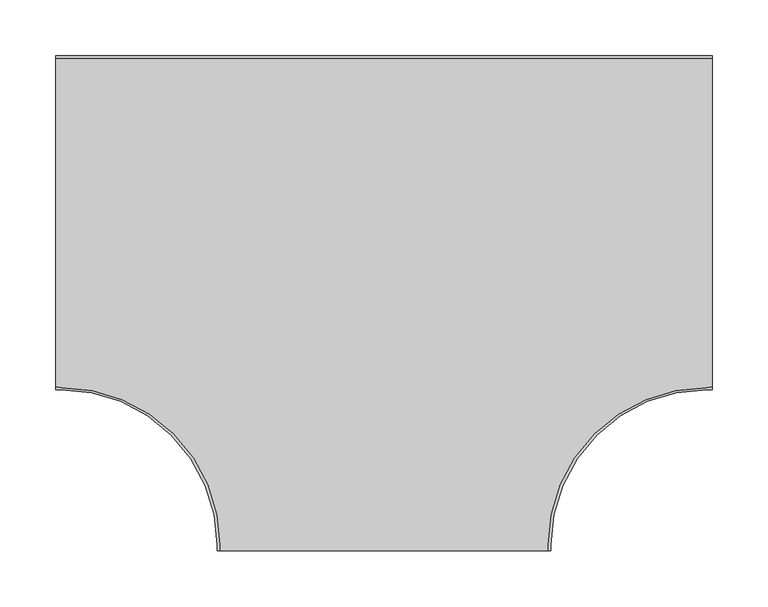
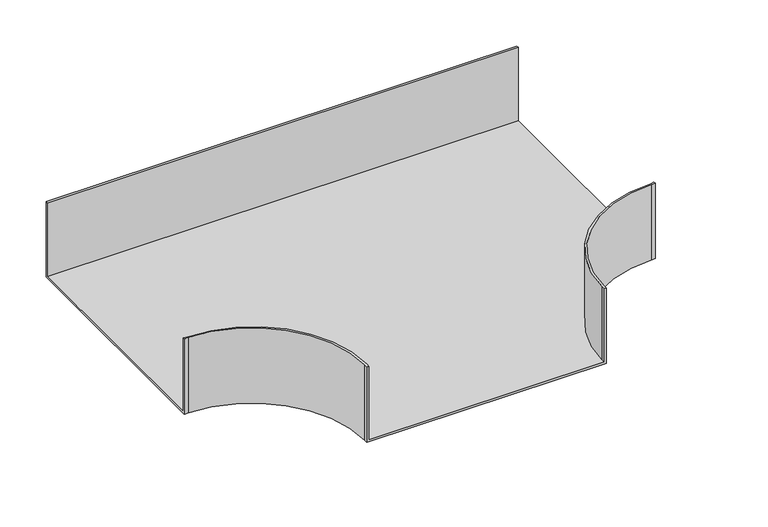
"""IFC4 building model written with IfcOpenShell, lengths in millimetres: cable carrier fitting geometry, BAKS_Horizontal tee radius : TKPJ_H100."""

from ifc_helpers import new_model, si_unit, frame, origin, place, context, project, spatial, polyline, circle_curve, source, transform, mapped, element, save
from ifc_brep_helpers import plane_surface, cylinder_surface, revolved_surface, advanced_brep


def cable_carrier_fitting_ca5a2d19(model_context):
    return source(origin(), model_context, "Body", "AdvancedBrep", [
        advanced_brep(
        [(-150.0, -290.0, 50.0), (-150.0, -295.0, 50.0), (-147.46, -295.0, 50.0), (-147.46, -290.0, 50.0), (-290.0, -148.503822, 50.0), (-295.0, -147.46, 50.0), (-295.0, -150.0, 50.0), (-290.0, -150.0, 50.0), (150.0, -290.0, 50.0), (290.0, -150.0, 50.0), (295.0, -150.0, 50.0), (295.0, -147.46, 50.0), (290.0, -148.503822, 50.0), (147.46, -290.0, 50.0), (147.46, -295.0, 50.0), (150.0, -295.0, 50.0), (295.0, 150.0, 50.0), (-295.0, 150.0, 50.0), (-295.0, 147.46, 50.0), (295.0, 147.46, 50.0), (-150.0, -290.0, -50.0), (-290.0, -150.0, -50.0), (-295.0, -150.0, -50.0), (-295.0, 150.0, -50.0), (295.0, 150.0, -50.0), (295.0, -150.0, -50.0), (290.0, -150.0, -50.0), (150.0, -290.0, -50.0), (150.0, -295.0, -50.0), (-150.0, -295.0, -50.0), (-150.0, -290.0, -47.46), (147.46, -295.0, -47.46), (-147.46, -295.0, -47.46), (-147.46, -290.0, -47.46), (-290.0, -148.503822, -47.46), (-295.0, -147.46, -47.46), (-295.0, 147.46, -47.46), (-290.0, -150.0, -47.46), (150.0, -290.0, -47.46), (290.0, -150.0, -47.46), (295.0, 147.46, -47.46), (295.0, -147.46, -47.46), (290.0, -148.503822, -47.46), (147.46, -290.0, -47.46)],
        [
            (0, 1),
            (1, 2),
            (2, 3),
            (3, 4, circle_curve(frame((-288.96, -290.0, 50.0), z_axis=(0.0, 0.0, 1.0), x_axis=(1.0, 0.0, 0.0)), 141.5)),
            (4, 5),
            (5, 6),
            (6, 7),
            (7, 0, circle_curve(frame((-290.0, -290.0, 50.0), z_axis=(0.0, 0.0, -1.0), x_axis=(1.0, 0.0, 0.0)), 140.0)),
            (8, 9, circle_curve(frame((290.0, -290.0, 50.0), z_axis=(0.0, 0.0, -1.0), x_axis=(1.0, 0.0, 0.0)), 140.0)),
            (9, 10),
            (10, 11),
            (11, 12),
            (12, 13, circle_curve(frame((288.96, -290.0, 50.0), z_axis=(0.0, 0.0, 1.0), x_axis=(1.0, 0.0, 0.0)), 141.5)),
            (13, 14),
            (14, 15),
            (15, 8),
            (16, 17),
            (17, 18),
            (18, 19),
            (19, 16),
            (20, 21, circle_curve(frame((-290.0, -290.0, -50.0), z_axis=(0.0, 0.0, 1.0), x_axis=(1.0, 0.0, 0.0)), 140.0)),
            (21, 22),
            (22, 23),
            (23, 24),
            (24, 25),
            (25, 26),
            (26, 27, circle_curve(frame((290.0, -290.0, -50.0), z_axis=(0.0, 0.0, 1.0), x_axis=(1.0, 0.0, 0.0)), 140.0)),
            (27, 28),
            (28, 29),
            (29, 20),
            (29, 1),
            (0, 30),
            (30, 20),
            (28, 15),
            (14, 31),
            (31, 32),
            (32, 2),
            (32, 33),
            (33, 3),
            (33, 34, circle_curve(frame((-288.96, -290.0, -47.46), z_axis=(0.0, 0.0, 1.0), x_axis=(1.0, 0.0, 0.0)), 141.5)),
            (34, 4),
            (34, 35),
            (35, 5),
            (35, 36),
            (36, 18),
            (17, 23),
            (22, 6),
            (21, 37),
            (37, 7),
            (8, 38),
            (38, 27),
            (26, 39),
            (39, 9),
            (25, 10),
            (24, 16),
            (19, 40),
            (40, 41),
            (41, 11),
            (41, 42),
            (42, 12),
            (42, 43, circle_curve(frame((288.96, -290.0, -47.46), z_axis=(0.0, 0.0, 1.0), x_axis=(1.0, 0.0, 0.0)), 141.5)),
            (43, 13),
            (43, 31),
            (36, 40),
        ],
        [
            plane_surface(frame((-150.0, -290.0, 50.0), z_axis=(0.0, 0.0, 1.0), x_axis=(0.0, -1.0, 0.0))),
            plane_surface(frame((-150.0, -290.0, -50.0), z_axis=(0.0, 0.0, -1.0), x_axis=(0.0, 1.0, 0.0))),
            plane_surface(frame((-150.0, -290.0, 50.0), z_axis=(-1.0, 0.0, 0.0), x_axis=(0.0, 0.0, -1.0))),
            plane_surface(frame((-150.0, -295.0, 50.0), z_axis=(0.0, -1.0, 0.0), x_axis=(0.0, 0.0, -1.0))),
            plane_surface(frame((-147.46, -295.0, 50.0), z_axis=(1.0, 0.0, 0.0), x_axis=(0.0, 0.0, -1.0))),
            cylinder_surface(frame((-288.96, -290.0, -50.0), z_axis=(0.0, 0.0, 1.0), x_axis=(1.0, 0.0, 0.0)), 141.5),
            plane_surface(frame((-290.0, -148.503822, 50.0), z_axis=(0.20435864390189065, 0.9788960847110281, 0.0), x_axis=(0.0, 0.0, -1.0))),
            plane_surface(frame((-295.0, -147.46, 50.0), z_axis=(-1.0, 0.0, 0.0), x_axis=(0.0, 0.0, -1.0))),
            plane_surface(frame((-295.0, -150.0, 50.0), z_axis=(0.0, -1.0, 0.0), x_axis=(0.0, 0.0, -1.0))),
            revolved_surface(polyline([(-150.0, -290.0, -50.0), (-150.0, -290.0, 50.0)]), (-290.0, -290.0, -50.0), (0.0, 0.0, -1.0)),
            revolved_surface(polyline([(430.0, -290.0, -50.0), (430.0, -290.0, 50.0)]), (290.0, -290.0, 0.0), (0.0, 0.0, -1.0)),
            plane_surface(frame((290.0, -150.0, 50.0), z_axis=(0.0, -1.0, 0.0), x_axis=(0.0, 0.0, -1.0))),
            plane_surface(frame((295.0, -150.0, 50.0), z_axis=(1.0, 0.0, 0.0), x_axis=(0.0, 0.0, -1.0))),
            plane_surface(frame((295.0, -147.46, 50.0), z_axis=(-0.2043586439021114, 0.9788960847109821, 0.0), x_axis=(0.0, 0.0, -1.0))),
            cylinder_surface(frame((288.96, -290.0, 0.0), z_axis=(0.0, 0.0, 1.0), x_axis=(1.0, 0.0, 0.0)), 141.5),
            plane_surface(frame((147.46, -290.0, 50.0), z_axis=(-1.0, 0.0, 0.0), x_axis=(0.0, 0.0, -1.0))),
            plane_surface(frame((150.0, -295.0, 50.0), z_axis=(1.0, 0.0, 0.0), x_axis=(0.0, 0.0, -1.0))),
            plane_surface(frame((295.0, 150.0, 50.0), z_axis=(0.0, 1.0, 0.0), x_axis=(0.0, 0.0, -1.0))),
            plane_surface(frame((-295.0, 147.46, 50.0), z_axis=(0.0, -1.0, 0.0), x_axis=(0.0, 0.0, -1.0))),
            plane_surface(frame((-150.0, -290.0, -47.46), z_axis=(0.0, 0.0, 1.0), x_axis=(0.0, -1.0, 0.0))),
        ],
        [
            (0, [[1, 2, 3, 4, 5, 6, 7, 8]]),
            (0, [[9, 10, 11, 12, 13, 14, 15, 16]]),
            (0, [[17, 18, 19, 20]]),
            (1, [[21, 22, 23, 24, 25, 26, 27, 28, 29, 30]]),
            (2, [[31, -1, 32, 33, -30]]),
            (3, [[-2, -31, -29, 34, -15, 35, 36, 37]]),
            (4, [[-3, -37, 38, 39]]),
            (5, [[-4, -39, 40, 41]]),
            (6, [[-5, -41, 42, 43]]),
            (7, [[-6, -43, 44, 45, -18, 46, -23, 47]]),
            (8, [[-7, -47, -22, 48, 49]]),
            (9, [[-8, -49, -48, -21, -33, -32]]),
            (10, [[-9, 50, 51, -27, 52, 53]]),
            (11, [[54, -10, -53, -52, -26]]),
            (12, [[-11, -54, -25, 55, -20, 56, 57, 58]]),
            (13, [[-12, -58, 59, 60]]),
            (14, [[-13, -60, 61, 62]]),
            (15, [[-14, -62, 63, -35]]),
            (16, [[-16, -34, -28, -51, -50]]),
            (17, [[-46, -17, -55, -24]]),
            (18, [[-19, -45, 64, -56]]),
            (19, [[-36, -63, -61, -59, -57, -64, -44, -42, -40, -38]]),
        ],
    ),
    ])


if __name__ == "__main__":
    model = new_model("IFC4")
    model_context = context("Model", 3, world=origin())
    ifc_project = project(units=[si_unit("LENGTHUNIT", "METRE", prefix="MILLI")], contexts=[model_context])
    site = spatial("IfcSite", under=ifc_project)
    building = spatial("IfcBuilding", under=site)
    placement = place(None, origin())
    cable_carrier_fitting_shape = cable_carrier_fitting_ca5a2d19(model_context)
    element("IfcCableCarrierFitting", 1, ObjectType="BAKS_Horizontal tee radius : TKPJ_H100", at=placement, inside=building, context=model_context, shape_type="MappedRepresentation", body=[
        mapped(cable_carrier_fitting_shape, transform((0.0, 0.0, 0.0), x_axis=(1.0, 0.0, 0.0), y_axis=(0.0, 1.0, 0.0), z_axis=(0.0, 0.0, 1.0))),
    ])
    save(model, "model.ifc")
